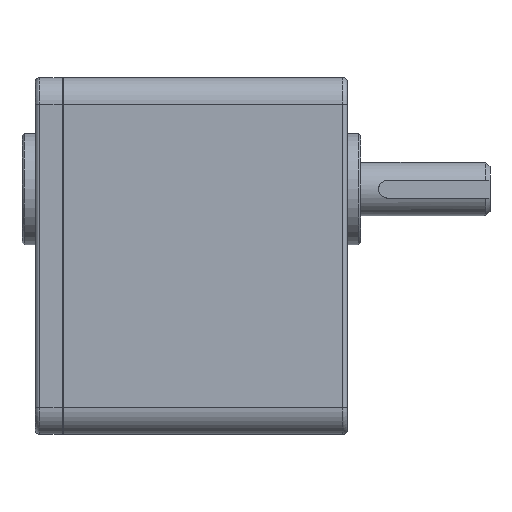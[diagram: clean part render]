
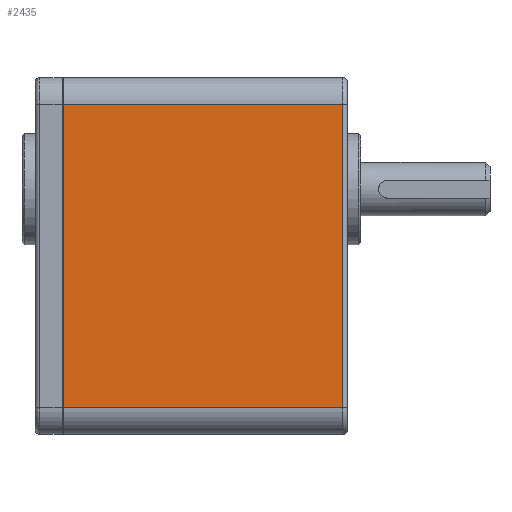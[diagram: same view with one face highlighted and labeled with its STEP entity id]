
A CAD part, front view. The second image highlights one B-rep face of the part: STEP entity #2435.
In plain terms, the highlighted planar face has unit normal (0, -1, 0).
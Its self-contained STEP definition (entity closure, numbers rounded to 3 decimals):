
#2163=CARTESIAN_POINT('',(19.5,-36.0,34.009));
#2164=VERTEX_POINT('',#2163);
#2231=CARTESIAN_POINT('',(19.5,-36.0,-33.991));
#2232=VERTEX_POINT('',#2231);
#2249=CARTESIAN_POINT('',(19.5,-36.0,34.009));
#2250=DIRECTION('',(0.0,0.0,-1.0));
#2251=VECTOR('',#2250,68.0);
#2252=LINE('',#2249,#2251);
#2253=EDGE_CURVE('',#2164,#2232,#2252,.T.);
#2386=CARTESIAN_POINT('',(-43.3,-36.0,-33.991));
#2387=VERTEX_POINT('',#2386);
#2388=CARTESIAN_POINT('',(19.5,-36.0,-33.991));
#2389=DIRECTION('',(-1.0,0.0,0.0));
#2390=VECTOR('',#2389,62.8);
#2391=LINE('',#2388,#2390);
#2392=EDGE_CURVE('',#2232,#2387,#2391,.T.);
#2412=CARTESIAN_POINT('',(-14.5,-36.0,0.009));
#2413=DIRECTION('',(0.0,1.0,0.0));
#2414=DIRECTION('',(0.0,0.0,1.0));
#2415=AXIS2_PLACEMENT_3D('',#2412,#2413,#2414);
#2416=PLANE('',#2415);
#2417=ORIENTED_EDGE('',*,*,#2253,.F.);
#2418=CARTESIAN_POINT('',(-43.3,-36.0,34.009));
#2419=VERTEX_POINT('',#2418);
#2420=CARTESIAN_POINT('',(-43.3,-36.0,34.009));
#2421=DIRECTION('',(1.0,0.0,0.0));
#2422=VECTOR('',#2421,62.8);
#2423=LINE('',#2420,#2422);
#2424=EDGE_CURVE('',#2419,#2164,#2423,.T.);
#2425=ORIENTED_EDGE('',*,*,#2424,.F.);
#2426=CARTESIAN_POINT('',(-43.3,-36.0,34.009));
#2427=DIRECTION('',(0.0,0.0,-1.0));
#2428=VECTOR('',#2427,68.);
#2429=LINE('',#2426,#2428);
#2430=EDGE_CURVE('',#2419,#2387,#2429,.T.);
#2431=ORIENTED_EDGE('',*,*,#2430,.T.);
#2432=ORIENTED_EDGE('',*,*,#2392,.F.);
#2433=EDGE_LOOP('',(#2417,#2425,#2431,#2432));
#2434=FACE_OUTER_BOUND('',#2433,.T.);
#2435=ADVANCED_FACE('',(#2434),#2416,.F.);
